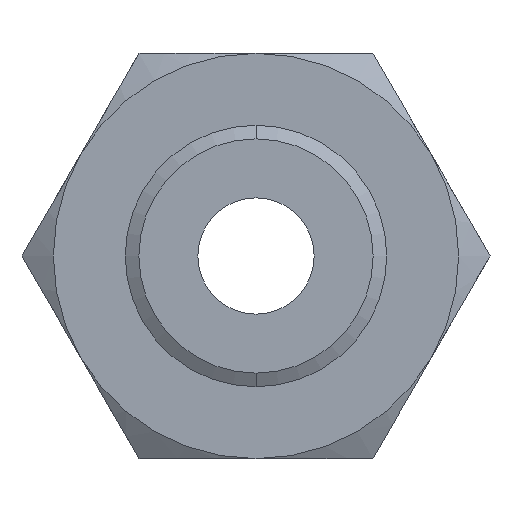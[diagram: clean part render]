
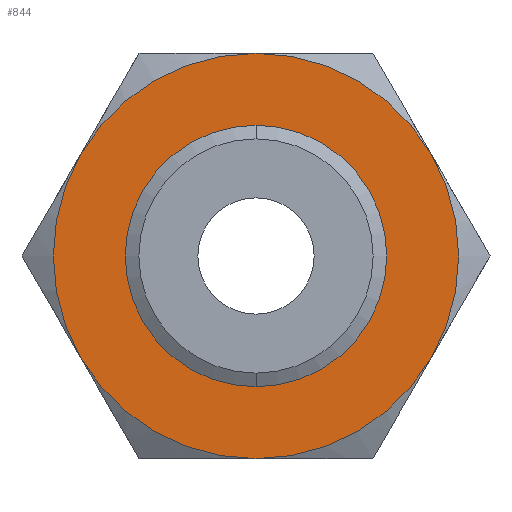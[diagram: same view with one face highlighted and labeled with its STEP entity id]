
A CAD part, front view. The second image highlights one B-rep face of the part: STEP entity #844.
In plain terms, the highlighted planar face has unit normal (0, -1, 0).
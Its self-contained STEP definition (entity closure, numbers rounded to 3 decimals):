
#844 = ADVANCED_FACE ( 'NONE', ( #1763, #1759 ), #1758, .F. ) ;
#846 = EDGE_LOOP ( 'NONE', ( #992, #875, #978, #976, #964, #966 ) ) ;
#875 = ORIENTED_EDGE ( 'NONE', *, *, #981, .F. ) ;
#876 = VERTEX_POINT ( 'NONE', #1817 ) ;
#878 = VERTEX_POINT ( 'NONE', #1812 ) ;
#879 = EDGE_CURVE ( 'NONE', #876, #963, #1811, .T. ) ;
#961 = EDGE_CURVE ( 'NONE', #878, #962, #2030, .T. ) ;
#962 = VERTEX_POINT ( 'NONE', #2025 ) ;
#963 = VERTEX_POINT ( 'NONE', #2024 ) ;
#964 = ORIENTED_EDGE ( 'NONE', *, *, #975, .F. ) ;
#965 = VERTEX_POINT ( 'NONE', #2023 ) ;
#966 = ORIENTED_EDGE ( 'NONE', *, *, #971, .F. ) ;
#967 = EDGE_LOOP ( 'NONE', ( #968, #970 ) ) ;
#968 = ORIENTED_EDGE ( 'NONE', *, *, #1055, .F. ) ;
#969 = EDGE_CURVE ( 'NONE', #1041, #1046, #2021, .T. ) ;
#970 = ORIENTED_EDGE ( 'NONE', *, *, #969, .F. ) ;
#971 = EDGE_CURVE ( 'NONE', #963, #965, #2076, .T. ) ;
#973 = VERTEX_POINT ( 'NONE', #2072 ) ;
#975 = EDGE_CURVE ( 'NONE', #965, #973, #2070, .T. ) ;
#976 = ORIENTED_EDGE ( 'NONE', *, *, #977, .F. ) ;
#977 = EDGE_CURVE ( 'NONE', #973, #878, #2065, .T. ) ;
#978 = ORIENTED_EDGE ( 'NONE', *, *, #961, .F. ) ;
#981 = EDGE_CURVE ( 'NONE', #962, #876, #2061, .T. ) ;
#992 = ORIENTED_EDGE ( 'NONE', *, *, #879, .F. ) ;
#1041 = VERTEX_POINT ( 'NONE', #2205 ) ;
#1046 = VERTEX_POINT ( 'NONE', #2194 ) ;
#1055 = EDGE_CURVE ( 'NONE', #1046, #1041, #2235, .T. ) ;
#1754 = DIRECTION ( 'NONE',  ( 0., 0., 1. ) ) ;
#1755 = DIRECTION ( 'NONE',  ( 0., 1., 0. ) ) ;
#1756 = CARTESIAN_POINT ( 'NONE',  ( 44.745, 0., -77.5 ) ) ;
#1757 = AXIS2_PLACEMENT_3D ( 'NONE', #1756, #1755, #1754 ) ;
#1758 = PLANE ( 'NONE',  #1757 ) ;
#1759 = FACE_BOUND ( 'NONE', #967, .T. ) ;
#1763 = FACE_OUTER_BOUND ( 'NONE', #846, .T. ) ;
#1810 = AXIS2_PLACEMENT_3D ( 'NONE', #1867, #1866, #1865 ) ;
#1811 = CIRCLE ( 'NONE', #1810, 77.5 ) ;
#1812 = CARTESIAN_POINT ( 'NONE',  ( -67.117, 0., -38.75 ) ) ;
#1817 = CARTESIAN_POINT ( 'NONE',  ( 0., 0., 77.5 ) ) ;
#1865 = DIRECTION ( 'NONE',  ( 0., 0., 1. ) ) ;
#1866 = DIRECTION ( 'NONE',  ( 0., 1., 0. ) ) ;
#1867 = CARTESIAN_POINT ( 'NONE',  ( 0., 0., 0. ) ) ;
#2020 = AXIS2_PLACEMENT_3D ( 'NONE', #2079, #2078, #2077 ) ;
#2021 = CIRCLE ( 'NONE', #2020, 44.804 ) ;
#2022 = CARTESIAN_POINT ( 'NONE',  ( 0., 0., 0. ) ) ;
#2023 = CARTESIAN_POINT ( 'NONE',  ( 67.117, 0., -38.75 ) ) ;
#2024 = CARTESIAN_POINT ( 'NONE',  ( 67.117, 0., 38.75 ) ) ;
#2025 = CARTESIAN_POINT ( 'NONE',  ( -67.117, 0., 38.75 ) ) ;
#2026 = DIRECTION ( 'NONE',  ( 0., 0., 1. ) ) ;
#2027 = DIRECTION ( 'NONE',  ( 0., 1., 0. ) ) ;
#2028 = CARTESIAN_POINT ( 'NONE',  ( 0., 0., 0. ) ) ;
#2029 = AXIS2_PLACEMENT_3D ( 'NONE', #2028, #2027, #2026 ) ;
#2030 = CIRCLE ( 'NONE', #2029, 77.5 ) ;
#2057 = DIRECTION ( 'NONE',  ( 0., 0., 1. ) ) ;
#2058 = DIRECTION ( 'NONE',  ( 0., 1., 0. ) ) ;
#2059 = CARTESIAN_POINT ( 'NONE',  ( 0., 0., 0. ) ) ;
#2060 = AXIS2_PLACEMENT_3D ( 'NONE', #2059, #2058, #2057 ) ;
#2061 = CIRCLE ( 'NONE', #2060, 77.5 ) ;
#2062 = DIRECTION ( 'NONE',  ( 0., 0., 1. ) ) ;
#2063 = DIRECTION ( 'NONE',  ( 0., 1., 0. ) ) ;
#2064 = AXIS2_PLACEMENT_3D ( 'NONE', #2071, #2063, #2062 ) ;
#2065 = CIRCLE ( 'NONE', #2064, 77.5 ) ;
#2066 = DIRECTION ( 'NONE',  ( 0., 0., 1. ) ) ;
#2067 = DIRECTION ( 'NONE',  ( 0., 1., 0. ) ) ;
#2068 = CARTESIAN_POINT ( 'NONE',  ( 0., 0., 0. ) ) ;
#2069 = AXIS2_PLACEMENT_3D ( 'NONE', #2068, #2067, #2066 ) ;
#2070 = CIRCLE ( 'NONE', #2069, 77.5 ) ;
#2071 = CARTESIAN_POINT ( 'NONE',  ( 0., 0., 0. ) ) ;
#2072 = CARTESIAN_POINT ( 'NONE',  ( 0., 0., -77.5 ) ) ;
#2073 = DIRECTION ( 'NONE',  ( 0., 0., 1. ) ) ;
#2074 = DIRECTION ( 'NONE',  ( 0., 1., 0. ) ) ;
#2075 = AXIS2_PLACEMENT_3D ( 'NONE', #2022, #2074, #2073 ) ;
#2076 = CIRCLE ( 'NONE', #2075, 77.5 ) ;
#2077 = DIRECTION ( 'NONE',  ( 0., 0., -1. ) ) ;
#2078 = DIRECTION ( 'NONE',  ( 0., -1., 0. ) ) ;
#2079 = CARTESIAN_POINT ( 'NONE',  ( 0., 0., 0. ) ) ;
#2194 = CARTESIAN_POINT ( 'NONE',  ( 0., 0., -44.804 ) ) ;
#2205 = CARTESIAN_POINT ( 'NONE',  ( 0., 0., 44.804 ) ) ;
#2231 = DIRECTION ( 'NONE',  ( 0., 0., -1. ) ) ;
#2232 = DIRECTION ( 'NONE',  ( 0., -1., 0. ) ) ;
#2233 = CARTESIAN_POINT ( 'NONE',  ( 0., 0., 0. ) ) ;
#2234 = AXIS2_PLACEMENT_3D ( 'NONE', #2233, #2232, #2231 ) ;
#2235 = CIRCLE ( 'NONE', #2234, 44.804 ) ;
